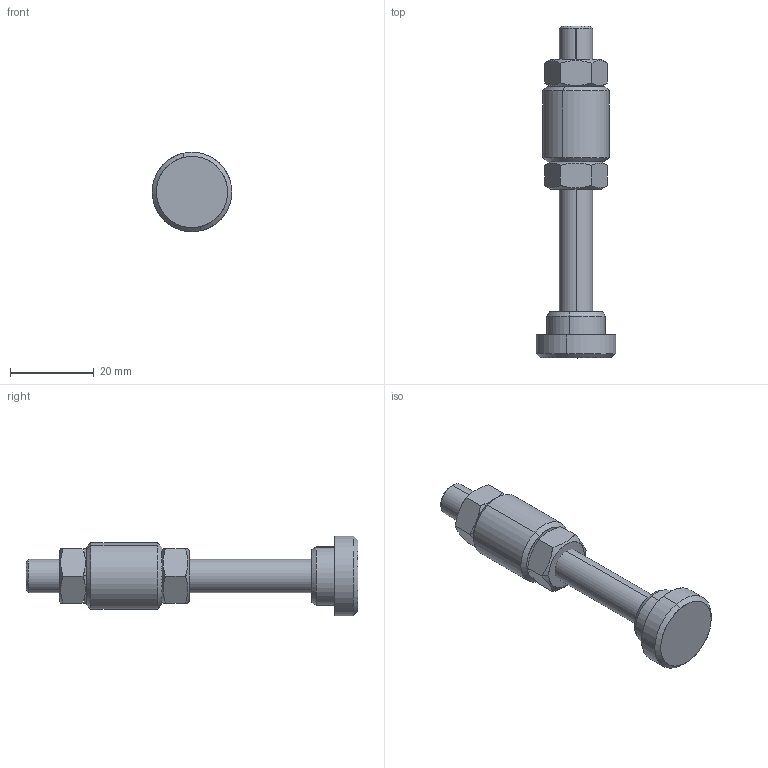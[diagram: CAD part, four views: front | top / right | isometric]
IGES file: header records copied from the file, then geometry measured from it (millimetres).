
Start section: SolidWorks IGES file using analytic representation for surfaces
Global section: file name: C:\Projetos\Ponteiras\ARB\ARB-M8\ARB-M8.IGS; native system: SolidWorks 2011; preprocessor: SolidWorks 2011; author: Usuario; date: 110520.144627; units: millimetre
Bounding box: 19.04 x 79.4 x 19.04 mm (x, y, z)
Surface area: 6221.8 mm2 (no closed solid volume)
Topology: 0 solids, 0 shells, 78 faces, 1256 edges, 1254 vertices
Faces by surface type: revolution 54, bspline 24
